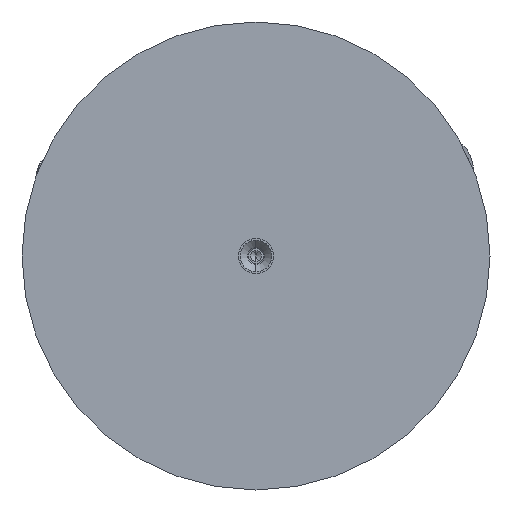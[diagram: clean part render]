
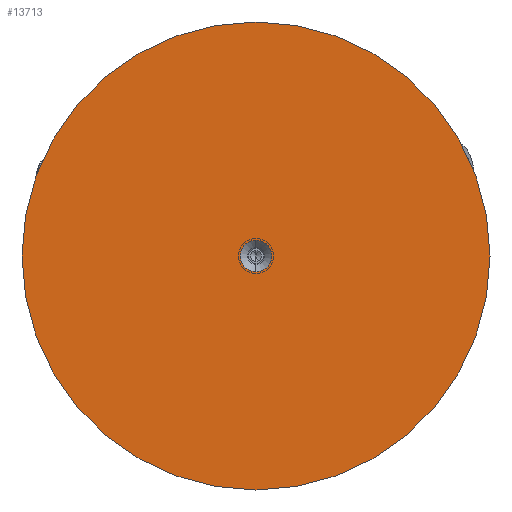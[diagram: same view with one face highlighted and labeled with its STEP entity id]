
A CAD part, front view. The second image highlights one B-rep face of the part: STEP entity #13713.
In plain terms, the highlighted planar face has unit normal (0, -1, 0).
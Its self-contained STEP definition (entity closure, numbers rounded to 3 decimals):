
#277 = CARTESIAN_POINT ( 'NONE',  ( -80.405, 31.538, 21.002 ) ) ;
#637 = DIRECTION ( 'NONE',  ( 0., 0., 1. ) ) ;
#1411 = DIRECTION ( 'NONE',  ( 0., 1., 0. ) ) ;
#1414 = CIRCLE ( 'NONE', #6725, 100. ) ;
#1716 = ORIENTED_EDGE ( 'NONE', *, *, #11409, .T. ) ;
#1930 = CIRCLE ( 'NONE', #4604, 100. ) ;
#2873 = CARTESIAN_POINT ( 'NONE',  ( -80.405, 31.538, 21.002 ) ) ;
#2875 = CIRCLE ( 'NONE', #11344, 6.75 ) ;
#3004 = EDGE_LOOP ( 'NONE', ( #11081, #7711 ) ) ;
#3175 = EDGE_CURVE ( 'NONE', #14848, #6669, #13903, .T. ) ;
#3749 = DIRECTION ( 'NONE',  ( 0., 0., 1. ) ) ;
#3868 = DIRECTION ( 'NONE',  ( 0., 1., 0. ) ) ;
#4237 = AXIS2_PLACEMENT_3D ( 'NONE', #277, #1411, #3749 ) ;
#4272 = DIRECTION ( 'NONE',  ( 0., 1., 0. ) ) ;
#4604 = AXIS2_PLACEMENT_3D ( 'NONE', #4747, #9357, #8210 ) ;
#4747 = CARTESIAN_POINT ( 'NONE',  ( -80.405, 31.538, 21.002 ) ) ;
#5129 = VERTEX_POINT ( 'NONE', #10569 ) ;
#5329 = DIRECTION ( 'NONE',  ( 0., 0., 1. ) ) ;
#5554 = FACE_BOUND ( 'NONE', #10994, .T. ) ;
#6010 = CARTESIAN_POINT ( 'NONE',  ( -80.405, 31.538, 14.252 ) ) ;
#6669 = VERTEX_POINT ( 'NONE', #6010 ) ;
#6674 = AXIS2_PLACEMENT_3D ( 'NONE', #9947, #4272, #5329 ) ;
#6725 = AXIS2_PLACEMENT_3D ( 'NONE', #2873, #3868, #10914 ) ;
#6934 = VERTEX_POINT ( 'NONE', #13100 ) ;
#7711 = ORIENTED_EDGE ( 'NONE', *, *, #7810, .F. ) ;
#7810 = EDGE_CURVE ( 'NONE', #5129, #6934, #1930, .T. ) ;
#8210 = DIRECTION ( 'NONE',  ( 0., 0., 1. ) ) ;
#9357 = DIRECTION ( 'NONE',  ( 0., 1., 0. ) ) ;
#9803 = DIRECTION ( 'NONE',  ( 0., 1., 0. ) ) ;
#9947 = CARTESIAN_POINT ( 'NONE',  ( -80.405, 31.538, 21.002 ) ) ;
#10189 = EDGE_CURVE ( 'NONE', #6934, #5129, #1414, .T. ) ;
#10569 = CARTESIAN_POINT ( 'NONE',  ( -80.405, 31.538, 121.002 ) ) ;
#10763 = ORIENTED_EDGE ( 'NONE', *, *, #3175, .T. ) ;
#10873 = CARTESIAN_POINT ( 'NONE',  ( -80.405, 31.538, 21.002 ) ) ;
#10914 = DIRECTION ( 'NONE',  ( 0., 0., 1. ) ) ;
#10994 = EDGE_LOOP ( 'NONE', ( #1716, #10763 ) ) ;
#11081 = ORIENTED_EDGE ( 'NONE', *, *, #10189, .F. ) ;
#11218 = FACE_OUTER_BOUND ( 'NONE', #3004, .T. ) ;
#11344 = AXIS2_PLACEMENT_3D ( 'NONE', #10873, #9803, #637 ) ;
#11409 = EDGE_CURVE ( 'NONE', #6669, #14848, #2875, .T. ) ;
#12301 = PLANE ( 'NONE',  #6674 ) ;
#13100 = CARTESIAN_POINT ( 'NONE',  ( -80.405, 31.538, -78.998 ) ) ;
#13713 = ADVANCED_FACE ( 'NONE', ( #5554, #11218 ), #12301, .F. ) ;
#13903 = CIRCLE ( 'NONE', #4237, 6.75 ) ;
#14608 = CARTESIAN_POINT ( 'NONE',  ( -80.405, 31.538, 27.752 ) ) ;
#14848 = VERTEX_POINT ( 'NONE', #14608 ) ;
